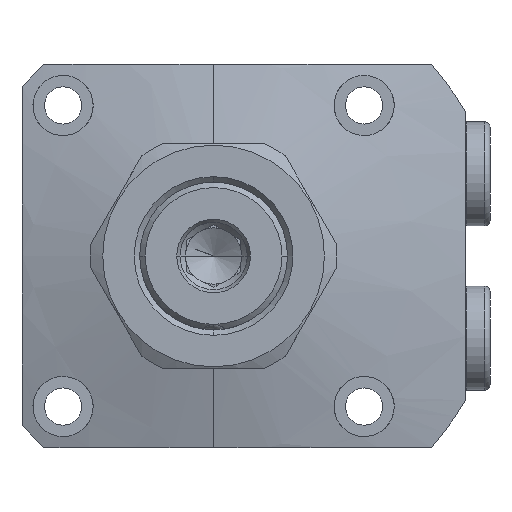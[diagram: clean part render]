
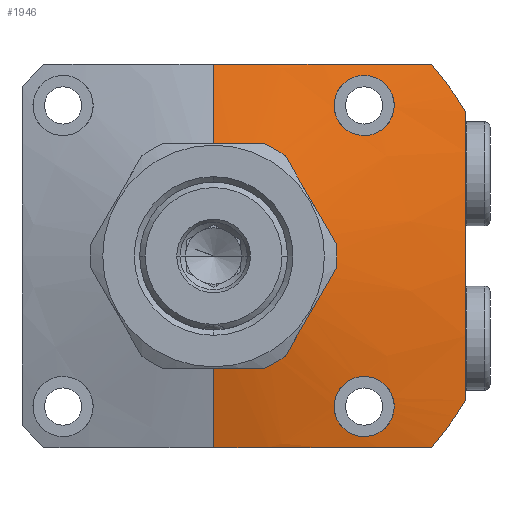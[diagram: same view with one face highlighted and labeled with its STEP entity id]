
A CAD part, left-side view. The second image highlights one B-rep face of the part: STEP entity #1946.
In plain terms, the highlighted conical face has half-angle 75 degrees and reference radius 20 mm.
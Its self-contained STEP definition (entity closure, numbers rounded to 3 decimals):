
#877=FACE_BOUND('',#2646,.T.);
#878=FACE_BOUND('',#2647,.T.);
#879=FACE_BOUND('',#2648,.T.);
#1028=CONICAL_SURFACE('',#6346,20.,75.);
#1382=LINE('',#9443,#1637);
#1383=LINE('',#9472,#1638);
#1637=VECTOR('',#7274,1.);
#1638=VECTOR('',#7275,1.);
#1946=ADVANCED_FACE('',(#877,#878,#879),#1028,.T.);
#2646=EDGE_LOOP('',(#4036,#4037,#4038,#4039,#4040,#4041,#4042,#4043));
#2647=EDGE_LOOP('',(#4044,#4045));
#2648=EDGE_LOOP('',(#4046,#4047));
#3027=CIRCLE('',#6281,53.);
#3056=CIRCLE('',#6343,53.);
#3057=CIRCLE('',#6345,20.);
#4036=ORIENTED_EDGE('',*,*,#5416,.T.);
#4037=ORIENTED_EDGE('',*,*,#5584,.F.);
#4038=ORIENTED_EDGE('',*,*,#5422,.F.);
#4039=ORIENTED_EDGE('',*,*,#5529,.T.);
#4040=ORIENTED_EDGE('',*,*,#5583,.T.);
#4041=ORIENTED_EDGE('',*,*,#5585,.T.);
#4042=ORIENTED_EDGE('',*,*,#5544,.T.);
#4043=ORIENTED_EDGE('',*,*,#5586,.T.);
#4044=ORIENTED_EDGE('',*,*,#5587,.F.);
#4045=ORIENTED_EDGE('',*,*,#5387,.F.);
#4046=ORIENTED_EDGE('',*,*,#5588,.F.);
#4047=ORIENTED_EDGE('',*,*,#5395,.F.);
#4845=VERTEX_POINT('',#9327);
#4846=VERTEX_POINT('',#9338);
#4853=VERTEX_POINT('',#9363);
#4854=VERTEX_POINT('',#9374);
#4869=VERTEX_POINT('',#9441);
#4870=VERTEX_POINT('',#9442);
#4871=VERTEX_POINT('',#9444);
#4876=VERTEX_POINT('',#9471);
#4960=VERTEX_POINT('',#9720);
#4965=VERTEX_POINT('',#9779);
#4967=VERTEX_POINT('',#9782);
#4974=VERTEX_POINT('',#9899);
#5387=EDGE_CURVE('',#4845,#4846,#5863,.T.);
#5395=EDGE_CURVE('',#4853,#4854,#5865,.T.);
#5416=EDGE_CURVE('',#4871,#4869,#1382,.T.);
#5422=EDGE_CURVE('',#4876,#4870,#1383,.T.);
#5529=EDGE_CURVE('',#4876,#4960,#5876,.T.);
#5544=EDGE_CURVE('',#4967,#4965,#3027,.T.);
#5583=EDGE_CURVE('',#4960,#4974,#3056,.T.);
#5584=EDGE_CURVE('',#4870,#4869,#3057,.T.);
#5585=EDGE_CURVE('',#4974,#4967,#5881,.T.);
#5586=EDGE_CURVE('',#4965,#4871,#5882,.T.);
#5587=EDGE_CURVE('',#4846,#4845,#5883,.T.);
#5588=EDGE_CURVE('',#4854,#4853,#5884,.T.);
#5863=B_SPLINE_CURVE_WITH_KNOTS('',3,(#9328,#9329,#9330,#9331,#9332,#9333,
#9334,#9335,#9336,#9337),.UNSPECIFIED.,.F.,.F.,(4,2,2,2,4),(0.,0.25,0.5,
0.75,1.),.UNSPECIFIED.);
#5865=B_SPLINE_CURVE_WITH_KNOTS('',3,(#9364,#9365,#9366,#9367,#9368,#9369,
#9370,#9371,#9372,#9373),.UNSPECIFIED.,.F.,.F.,(4,2,2,2,4),(0.,0.25,0.5,
0.75,1.),.UNSPECIFIED.);
#5876=B_SPLINE_CURVE_WITH_KNOTS('',3,(#9721,#9722,#9723,#9724),
 .UNSPECIFIED.,.F.,.F.,(4,4),(0.,1.),.UNSPECIFIED.);
#5881=B_SPLINE_CURVE_WITH_KNOTS('',3,(#9903,#9904,#9905,#9906,#9907),
 .UNSPECIFIED.,.F.,.F.,(4,1,4),(0.,0.5,1.),.UNSPECIFIED.);
#5882=B_SPLINE_CURVE_WITH_KNOTS('',3,(#9908,#9909,#9910,#9911),
 .UNSPECIFIED.,.F.,.F.,(4,4),(0.,1.),.UNSPECIFIED.);
#5883=B_SPLINE_CURVE_WITH_KNOTS('',3,(#9912,#9913,#9914,#9915,#9916,#9917,
#9918,#9919,#9920,#9921),.UNSPECIFIED.,.F.,.F.,(4,2,2,2,4),(0.,0.25,0.5,
0.75,1.),.UNSPECIFIED.);
#5884=B_SPLINE_CURVE_WITH_KNOTS('',3,(#9922,#9923,#9924,#9925,#9926,#9927,
#9928,#9929,#9930,#9931),.UNSPECIFIED.,.F.,.F.,(4,2,2,2,4),(0.,0.25,0.5,
0.75,1.),.UNSPECIFIED.);
#6281=AXIS2_PLACEMENT_3D('',#9781,#7538,#7539);
#6343=AXIS2_PLACEMENT_3D('',#9900,#7670,#7671);
#6345=AXIS2_PLACEMENT_3D('',#9902,#7674,#7675);
#6346=AXIS2_PLACEMENT_3D('',#9932,#7676,#7677);
#7274=DIRECTION('',(-0.259,0.,-0.966));
#7275=DIRECTION('',(-0.259,0.,0.966));
#7538=DIRECTION('',(-1.,0.,0.));
#7539=DIRECTION('',(0.,0.,1.));
#7670=DIRECTION('',(-1.,0.,0.));
#7671=DIRECTION('',(0.,0.,1.));
#7674=DIRECTION('',(-1.,0.,0.));
#7675=DIRECTION('',(0.,0.,1.));
#7676=DIRECTION('',(1.,0.,0.));
#7677=DIRECTION('',(0.,0.,1.));
#9327=CARTESIAN_POINT('',(-24.849,-27.5,-33.));
#9328=CARTESIAN_POINT('',(-24.849,-27.5,-33.));
#9329=CARTESIAN_POINT('',(-24.599,-28.956,-33.));
#9330=CARTESIAN_POINT('',(-24.461,-30.403,-32.394));
#9331=CARTESIAN_POINT('',(-24.468,-32.446,-30.313));
#9332=CARTESIAN_POINT('',(-24.613,-33.025,-28.846));
#9333=CARTESIAN_POINT('',(-25.118,-32.974,-25.959));
#9334=CARTESIAN_POINT('',(-25.474,-32.36,-24.561));
#9335=CARTESIAN_POINT('',(-26.227,-30.333,-22.577));
#9336=CARTESIAN_POINT('',(-26.62,-28.946,-22.));
#9337=CARTESIAN_POINT('',(-26.923,-27.5,-22.));
#9338=CARTESIAN_POINT('',(-26.923,-27.5,-22.));
#9363=CARTESIAN_POINT('',(-26.923,-27.5,22.));
#9364=CARTESIAN_POINT('',(-26.923,-27.5,22.));
#9365=CARTESIAN_POINT('',(-26.62,-28.947,22.));
#9366=CARTESIAN_POINT('',(-26.226,-30.336,22.581));
#9367=CARTESIAN_POINT('',(-25.475,-32.356,24.557));
#9368=CARTESIAN_POINT('',(-25.118,-32.972,25.962));
#9369=CARTESIAN_POINT('',(-24.616,-33.026,28.83));
#9370=CARTESIAN_POINT('',(-24.468,-32.455,30.301));
#9371=CARTESIAN_POINT('',(-24.461,-30.405,32.395));
#9372=CARTESIAN_POINT('',(-24.599,-28.957,33.));
#9373=CARTESIAN_POINT('',(-24.849,-27.5,33.));
#9374=CARTESIAN_POINT('',(-24.849,-27.5,33.));
#9441=CARTESIAN_POINT('',(-31.,0.,20.));
#9442=CARTESIAN_POINT('',(-31.,0.,-20.));
#9443=CARTESIAN_POINT('',(-31.,0.,20.));
#9444=CARTESIAN_POINT('',(-26.981,0.,35.));
#9471=CARTESIAN_POINT('',(-26.981,0.,-35.));
#9472=CARTESIAN_POINT('',(-31.,0.,-20.));
#9720=CARTESIAN_POINT('',(-22.158,-39.799,-35.));
#9721=CARTESIAN_POINT('',(-26.981,0.,-35.));
#9722=CARTESIAN_POINT('',(-26.981,-13.448,-35.));
#9723=CARTESIAN_POINT('',(-24.802,-26.66,-35.));
#9724=CARTESIAN_POINT('',(-22.158,-39.799,-35.));
#9779=CARTESIAN_POINT('',(-22.158,-39.799,35.));
#9781=CARTESIAN_POINT('',(-22.158,0.,0.));
#9782=CARTESIAN_POINT('',(-22.158,-46.,26.325));
#9899=CARTESIAN_POINT('',(-22.158,-46.,-26.325));
#9900=CARTESIAN_POINT('',(-22.158,0.,0.));
#9902=CARTESIAN_POINT('',(-31.,0.,0.));
#9903=CARTESIAN_POINT('',(-22.158,-46.,-26.325));
#9904=CARTESIAN_POINT('',(-23.326,-46.,-17.55));
#9905=CARTESIAN_POINT('',(-24.741,-46.,0.));
#9906=CARTESIAN_POINT('',(-23.326,-46.,17.55));
#9907=CARTESIAN_POINT('',(-22.158,-46.,26.325));
#9908=CARTESIAN_POINT('',(-22.158,-39.799,35.));
#9909=CARTESIAN_POINT('',(-24.802,-26.659,35.));
#9910=CARTESIAN_POINT('',(-26.981,-13.461,35.));
#9911=CARTESIAN_POINT('',(-26.981,0.,35.));
#9912=CARTESIAN_POINT('',(-26.923,-27.5,-22.));
#9913=CARTESIAN_POINT('',(-27.226,-26.052,-22.));
#9914=CARTESIAN_POINT('',(-27.415,-24.604,-22.601));
#9915=CARTESIAN_POINT('',(-27.408,-22.556,-24.683));
#9916=CARTESIAN_POINT('',(-27.21,-21.979,-26.147));
#9917=CARTESIAN_POINT('',(-26.6,-22.023,-29.022));
#9918=CARTESIAN_POINT('',(-26.202,-22.624,-30.413));
#9919=CARTESIAN_POINT('',(-25.45,-24.643,-32.409));
#9920=CARTESIAN_POINT('',(-25.099,-26.041,-33.));
#9921=CARTESIAN_POINT('',(-24.849,-27.5,-33.));
#9922=CARTESIAN_POINT('',(-24.849,-27.5,33.));
#9923=CARTESIAN_POINT('',(-25.099,-26.041,33.));
#9924=CARTESIAN_POINT('',(-25.451,-24.639,32.405));
#9925=CARTESIAN_POINT('',(-26.201,-22.628,30.417));
#9926=CARTESIAN_POINT('',(-26.601,-22.024,29.017));
#9927=CARTESIAN_POINT('',(-27.206,-21.977,26.165));
#9928=CARTESIAN_POINT('',(-27.407,-22.545,24.697));
#9929=CARTESIAN_POINT('',(-27.416,-24.602,22.6));
#9930=CARTESIAN_POINT('',(-27.226,-26.051,22.));
#9931=CARTESIAN_POINT('',(-26.923,-27.5,22.));
#9932=CARTESIAN_POINT('',(-31.,0.,0.));
